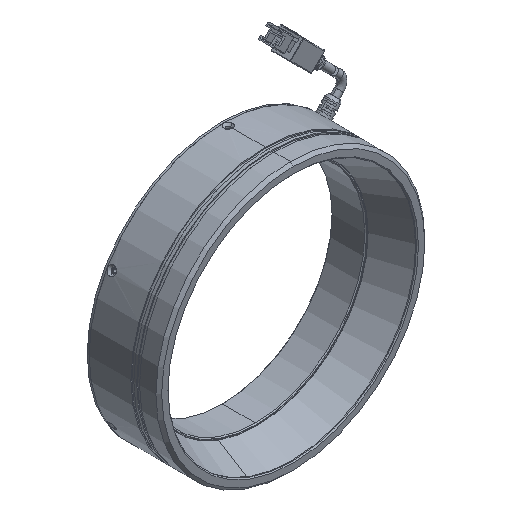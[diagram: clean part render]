
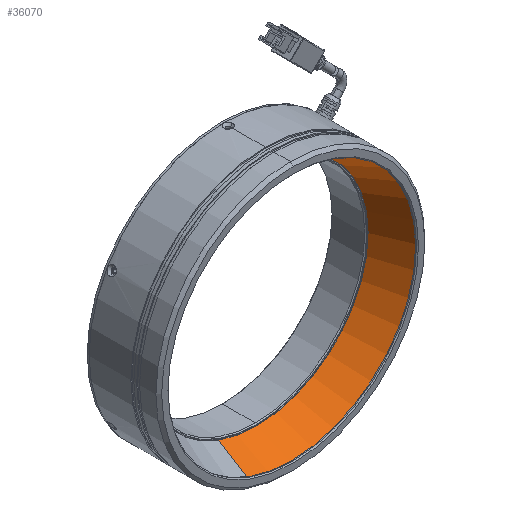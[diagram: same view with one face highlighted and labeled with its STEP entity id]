
A CAD part, isometric view. The second image highlights one B-rep face of the part: STEP entity #36070.
In plain terms, the highlighted conical face has half-angle 23 degrees and reference radius 65.641 mm.
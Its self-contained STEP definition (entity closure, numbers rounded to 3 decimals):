
#2655 = EDGE_CURVE ( 'NONE', #24509, #5814, #7424, .T. ) ;
#3642 = CARTESIAN_POINT ( 'NONE',  ( 0., 59.278, 65.641 ) ) ;
#4856 = CARTESIAN_POINT ( 'NONE',  ( 0., 59.278, -65.641 ) ) ;
#5491 = EDGE_CURVE ( 'NONE', #19792, #34481, #33814, .T. ) ;
#5814 = VERTEX_POINT ( 'NONE', #45161 ) ;
#7200 = DIRECTION ( 'NONE',  ( 0., -0.921, 0.391 ) ) ;
#7424 = LINE ( 'NONE', #3642, #43037 ) ;
#8273 = CARTESIAN_POINT ( 'NONE',  ( 0., 59.278, 0. ) ) ;
#8436 = DIRECTION ( 'NONE',  ( 0., -1., 0. ) ) ;
#8602 = DIRECTION ( 'NONE',  ( 0., -0.921, -0.391 ) ) ;
#12974 = ORIENTED_EDGE ( 'NONE', *, *, #5491, .T. ) ;
#14025 = AXIS2_PLACEMENT_3D ( 'NONE', #19731, #44598, #23303 ) ;
#14848 = VECTOR ( 'NONE', #8602, 1000. ) ;
#14905 = EDGE_CURVE ( 'NONE', #19792, #24509, #15227, .T. ) ;
#15227 = CIRCLE ( 'NONE', #45164, 58. ) ;
#15815 = ORIENTED_EDGE ( 'NONE', *, *, #2655, .F. ) ;
#18944 = EDGE_CURVE ( 'NONE', #34481, #5814, #40562, .T. ) ;
#19731 = CARTESIAN_POINT ( 'NONE',  ( 0., 59.278, 0. ) ) ;
#19792 = VERTEX_POINT ( 'NONE', #28551 ) ;
#20079 = CARTESIAN_POINT ( 'NONE',  ( 0., 77.278, 0. ) ) ;
#20421 = AXIS2_PLACEMENT_3D ( 'NONE', #8273, #8436, #33199 ) ;
#23303 = DIRECTION ( 'NONE',  ( 0., 0., -1. ) ) ;
#23671 = DIRECTION ( 'NONE',  ( 0., 0., -1. ) ) ;
#24509 = VERTEX_POINT ( 'NONE', #27926 ) ;
#26905 = FACE_OUTER_BOUND ( 'NONE', #40489, .T. ) ;
#27926 = CARTESIAN_POINT ( 'NONE',  ( 0., 77.278, 58. ) ) ;
#28551 = CARTESIAN_POINT ( 'NONE',  ( 0., 77.278, -58. ) ) ;
#29958 = CARTESIAN_POINT ( 'NONE',  ( 0., 59.278, -65.641 ) ) ;
#30359 = ORIENTED_EDGE ( 'NONE', *, *, #14905, .F. ) ;
#33199 = DIRECTION ( 'NONE',  ( 0., 0., -1. ) ) ;
#33814 = LINE ( 'NONE', #29958, #14848 ) ;
#34141 = CONICAL_SURFACE ( 'NONE', #20421, 65.641, 0.401 ) ;
#34481 = VERTEX_POINT ( 'NONE', #4856 ) ;
#36070 = ADVANCED_FACE ( 'NONE', ( #26905 ), #34141, .F. ) ;
#40489 = EDGE_LOOP ( 'NONE', ( #15815, #30359, #12974, #42782 ) ) ;
#40562 = CIRCLE ( 'NONE', #14025, 65.641 ) ;
#42782 = ORIENTED_EDGE ( 'NONE', *, *, #18944, .T. ) ;
#43037 = VECTOR ( 'NONE', #7200, 1000. ) ;
#44598 = DIRECTION ( 'NONE',  ( 0., -1., 0. ) ) ;
#44949 = DIRECTION ( 'NONE',  ( 0., -1., 0. ) ) ;
#45161 = CARTESIAN_POINT ( 'NONE',  ( 0., 59.278, 65.641 ) ) ;
#45164 = AXIS2_PLACEMENT_3D ( 'NONE', #20079, #44949, #23671 ) ;
